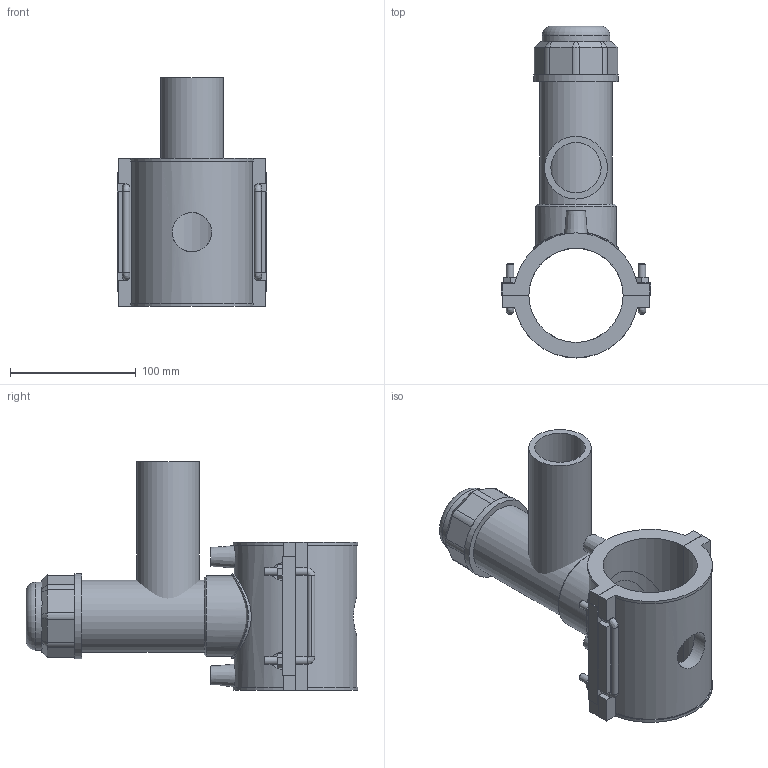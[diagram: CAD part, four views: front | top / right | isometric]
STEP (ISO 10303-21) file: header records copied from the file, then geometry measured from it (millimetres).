
FILE_DESCRIPTION(/* description */ (''),/* implementation_level */ '2;1');
FILE_NAME(/* name */ 'C:\Dropbox\KIMPROJECTS-Inventor 2019\99-16-3568-Processing\ElectroFusion Fittings\4963P4\stp\4963P4075050.stp',/* time_stamp */ '2022-03-17T11:26:28+02:00',/* author */ ('KIM'),/* organization */ (''),/* preprocessor_version */ 'ST-DEVELOPER v17.2',/* originating_system */ 'Autodesk Inventor 2019',/* authorisation */ '');
FILE_SCHEMA (('AUTOMOTIVE_DESIGN { 1 0 10303 214 3 1 1 }'));
Length unit declared in the file: millimetre
Products named in the file (1): 4963P4075050
Bounding box: 119 x 264.23 x 182 mm (x, y, z)
Volume: 777197.4 mm3; surface area: 193443.9 mm2
Topology: 3 solids, 3 shells, 188 faces, 493 edges, 316 vertices
Faces by surface type: plane 115, cylinder 48, cone 15, bspline 9, torus 1
Full cylindrical faces by diameter (mm): 4 x2, 6 x8, 10 x2, 31.36 x1, 40 x1, 47.25 x1, 50 x1, 54 x1, 57.375 x1, 64.125 x1, 67.5 x2
Entity records: 6655 total; most frequent: CARTESIAN_POINT 1953, ORIENTED_EDGE 970, DIRECTION 961, EDGE_CURVE 485, AXIS2_PLACEMENT_3D 329, VERTEX_POINT 316, LINE 303, VECTOR 303
